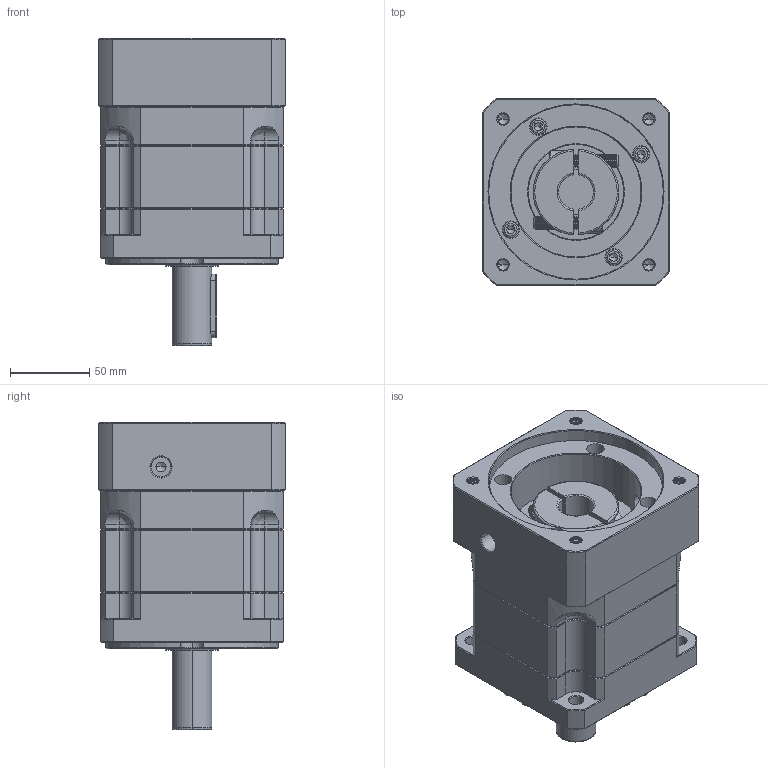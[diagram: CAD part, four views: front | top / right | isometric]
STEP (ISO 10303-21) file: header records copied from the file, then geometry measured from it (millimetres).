
FILE_DESCRIPTION (( 'STEP AP214' ), '1' );
FILE_NAME ('ZB115A-D25-L1-22-110-130-M8.step', '2023-03-02T08:56:04', ( '' ), ( 'Microsoft' ), 'SwSTEP 2.0', 'SolidWorks 2016', '' );
FILE_SCHEMA (( 'AUTOMOTIVE_DESIGN' ));
Length unit declared in the file: millimetre
Products named in the file (1): ZB115A-D25-L1-22-110-130-M8
Bounding box: 118 x 118 x 193.5 mm (x, y, z)
Volume: 1545024.3 mm3; surface area: 169223.5 mm2
Topology: 6 solids, 6 shells, 2118 faces, 5466 edges, 3443 vertices
Faces by surface type: plane 964, cylinder 441, cone 368, bspline 325, torus 20
Entity records: 113189 total; most frequent: CARTESIAN_POINT 41193, ORIENTED_EDGE 10864, DIRECTION 8919, EDGE_CURVE 5432, VERTEX_POINT 3443, VECTOR 3375, LINE 3375, AXIS2_PLACEMENT_3D 2772
